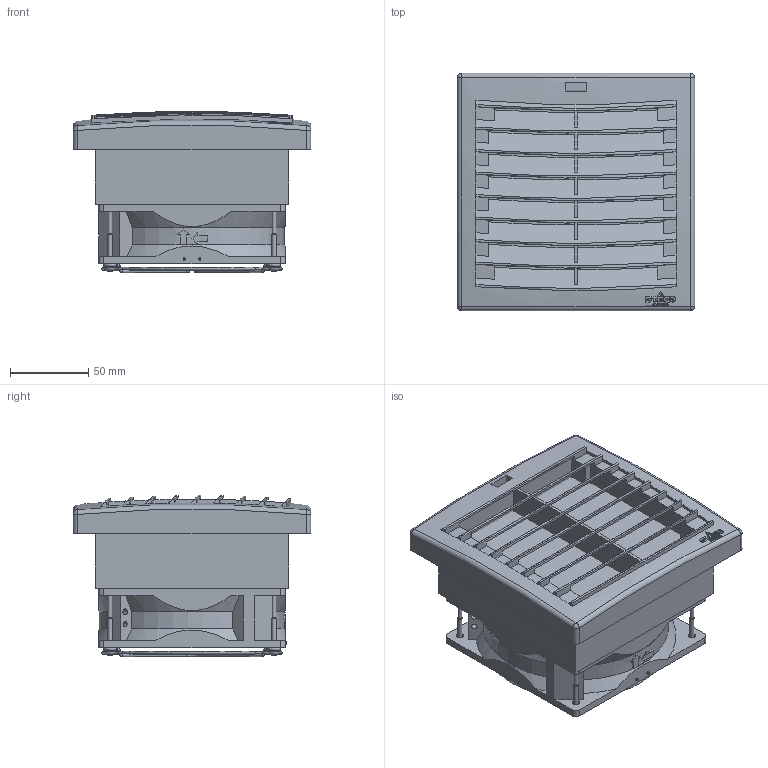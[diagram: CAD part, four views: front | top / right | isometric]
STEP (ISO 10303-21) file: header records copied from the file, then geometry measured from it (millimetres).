
FILE_DESCRIPTION (( 'STEP AP214' ), '1' );
FILE_NAME ('FPO_018_124x124_EPLAN_10_2015.STEP', '2015-10-16T07:36:46', ( '' ), ( '' ), 'SwSTEP 2.0', 'SolidWorks 2015', '' );
FILE_SCHEMA (( 'AUTOMOTIVE_DESIGN' ));
Length unit declared in the file: millimetre
Products named in the file (1): FPO_018_124x124_EPLAN_10_2015
Bounding box: 152 x 152 x 103.12 mm (x, y, z)
Surface area: 209223.9 mm2 (no closed solid volume)
Topology: 0 solids, 27 shells, 431 faces, 1791 edges, 1302 vertices
Faces by surface type: plane 194, cylinder 79, sphere 55, bspline 49, torus 41, cone 13
Full cylindrical faces by diameter (mm): 1.5 x2, 1.8 x16, 2.5 x4, 2.75 x4, 3.5 x2, 4 x2, 4.572 x8, 5.316 x1, 7.4 x4, 7.8 x4, 115.062 x1
Entity records: 26901 total; most frequent: CARTESIAN_POINT 8859, DIRECTION 2648, ORIENTED_EDGE 2487, EDGE_CURVE 1596, VERTEX_POINT 1226, AXIS2_PLACEMENT_3D 1002, VECTOR 644, LINE 644
